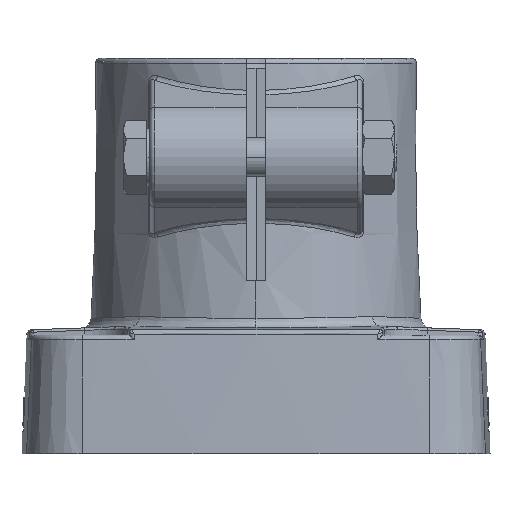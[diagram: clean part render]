
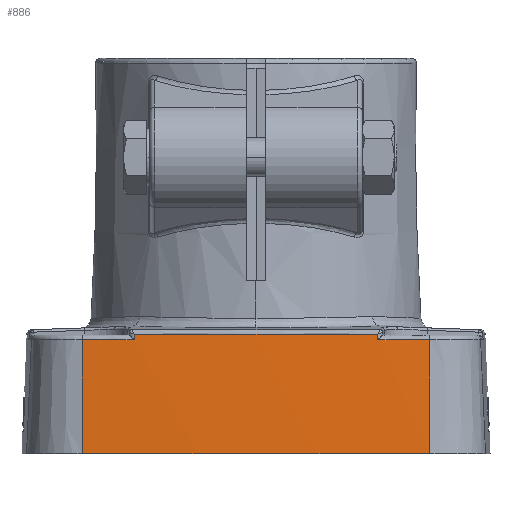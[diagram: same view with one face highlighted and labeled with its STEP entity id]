
A CAD part, left-side view. The second image highlights one B-rep face of the part: STEP entity #886.
In plain terms, the highlighted conical face has half-angle 2.5 degrees and reference radius 600 mm.
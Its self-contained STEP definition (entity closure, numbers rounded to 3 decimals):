
#801=CARTESIAN_POINT('Vertex',(-45.463,35.133,23.044)) ;
#808=CARTESIAN_POINT('Vertex',(-46.467,35.192,0.)) ;
#811=CARTESIAN_POINT('Line Origine',(-45.918,35.159,12.593)) ;
#823=CARTESIAN_POINT('Axis2P3D Location',(552.5,0.,0.)) ;
#829=CARTESIAN_POINT('Control Point',(-45.985,24.686,23.044)) ;
#830=CARTESIAN_POINT('Control Point',(-45.961,24.687,23.588)) ;
#831=CARTESIAN_POINT('Control Point',(-45.937,24.688,24.132)) ;
#832=CARTESIAN_POINT('Vertex',(-45.937,24.688,24.132)) ;
#834=CARTESIAN_POINT('Vertex',(-45.985,24.686,23.044)) ;
#837=CARTESIAN_POINT('Axis2P3D Location',(552.5,0.,23.044)) ;
#842=CARTESIAN_POINT('Axis2P3D Location',(552.5,0.,0.)) ;
#846=CARTESIAN_POINT('Vertex',(-46.467,-35.192,0.)) ;
#849=CARTESIAN_POINT('Line Origine',(-45.921,-35.159,12.537)) ;
#853=CARTESIAN_POINT('Vertex',(-45.463,-35.133,23.044)) ;
#856=CARTESIAN_POINT('Axis2P3D Location',(552.5,0.,23.044)) ;
#860=CARTESIAN_POINT('Vertex',(-45.985,-24.686,23.044)) ;
#864=CARTESIAN_POINT('Control Point',(-45.985,-24.686,23.044)) ;
#865=CARTESIAN_POINT('Control Point',(-45.961,-24.687,23.588)) ;
#866=CARTESIAN_POINT('Control Point',(-45.937,-24.688,24.132)) ;
#867=CARTESIAN_POINT('Vertex',(-45.937,-24.688,24.132)) ;
#871=CARTESIAN_POINT('Control Point',(-45.937,24.688,24.132)) ;
#872=CARTESIAN_POINT('Control Point',(-46.617,8.239,24.109)) ;
#873=CARTESIAN_POINT('Control Point',(-46.617,-8.239,24.109)) ;
#874=CARTESIAN_POINT('Control Point',(-45.937,-24.688,24.132)) ;
#812=DIRECTION('Vector Direction',(-0.044,0.003,-0.999)) ;
#824=DIRECTION('Axis2P3D Direction',(-0.,-0.,-1.)) ;
#825=DIRECTION('Axis2P3D XDirection',(-0.998,0.059,0.)) ;
#838=DIRECTION('Axis2P3D Direction',(0.,0.,1.)) ;
#843=DIRECTION('Axis2P3D Direction',(0.,0.,1.)) ;
#850=DIRECTION('Vector Direction',(-0.044,-0.003,-0.999)) ;
#857=DIRECTION('Axis2P3D Direction',(0.,0.,1.)) ;
#826=AXIS2_PLACEMENT_3D('Cone Axis2P3D',#823,#824,#825) ;
#839=AXIS2_PLACEMENT_3D('Circle Axis2P3D',#837,#838,$) ;
#844=AXIS2_PLACEMENT_3D('Circle Axis2P3D',#842,#843,$) ;
#858=AXIS2_PLACEMENT_3D('Circle Axis2P3D',#856,#857,$) ;
#877=ORIENTED_EDGE('',*,*,#836,.T.) ;
#878=ORIENTED_EDGE('',*,*,#841,.T.) ;
#879=ORIENTED_EDGE('',*,*,#815,.F.) ;
#880=ORIENTED_EDGE('',*,*,#848,.F.) ;
#881=ORIENTED_EDGE('',*,*,#855,.T.) ;
#882=ORIENTED_EDGE('',*,*,#862,.T.) ;
#883=ORIENTED_EDGE('',*,*,#869,.F.) ;
#884=ORIENTED_EDGE('',*,*,#875,.F.) ;
#813=VECTOR('Line Direction',#812,1.) ;
#851=VECTOR('Line Direction',#850,1.) ;
#886=ADVANCED_FACE('PartBody',(#885),#827,.T.) ;
#828=B_SPLINE_CURVE_WITH_KNOTS('',2,(#829,#830,#831),.UNSPECIFIED.,.F.,.U.,(3,3),(39.714,41.255),.UNSPECIFIED.) ;
#863=B_SPLINE_CURVE_WITH_KNOTS('',2,(#864,#865,#866),.UNSPECIFIED.,.F.,.U.,(3,3),(39.714,41.255),.UNSPECIFIED.) ;
#870=B_SPLINE_CURVE_WITH_KNOTS('',3,(#871,#872,#873,#874),.UNSPECIFIED.,.F.,.U.,(4,4),(34.671,104.522),.UNSPECIFIED.) ;
#840=CIRCLE('generated circle',#839,598.994) ;
#845=CIRCLE('generated circle',#844,600.) ;
#859=CIRCLE('generated circle',#858,598.994) ;
#827=CONICAL_SURFACE('Cone',#826,600.,0.044) ;
#815=EDGE_CURVE('',#809,#802,#814,.F.) ;
#836=EDGE_CURVE('',#833,#835,#828,.F.) ;
#841=EDGE_CURVE('',#835,#802,#840,.F.) ;
#848=EDGE_CURVE('',#847,#809,#845,.F.) ;
#855=EDGE_CURVE('',#847,#854,#852,.F.) ;
#862=EDGE_CURVE('',#854,#861,#859,.F.) ;
#869=EDGE_CURVE('',#868,#861,#863,.F.) ;
#875=EDGE_CURVE('',#833,#868,#870,.T.) ;
#876=EDGE_LOOP('',(#877,#878,#879,#880,#881,#882,#883,#884)) ;
#885=FACE_OUTER_BOUND('',#876,.T.) ;
#814=LINE('Line',#811,#813) ;
#852=LINE('Line',#849,#851) ;
#802=VERTEX_POINT('',#801) ;
#809=VERTEX_POINT('',#808) ;
#833=VERTEX_POINT('',#832) ;
#835=VERTEX_POINT('',#834) ;
#847=VERTEX_POINT('',#846) ;
#854=VERTEX_POINT('',#853) ;
#861=VERTEX_POINT('',#860) ;
#868=VERTEX_POINT('',#867) ;
